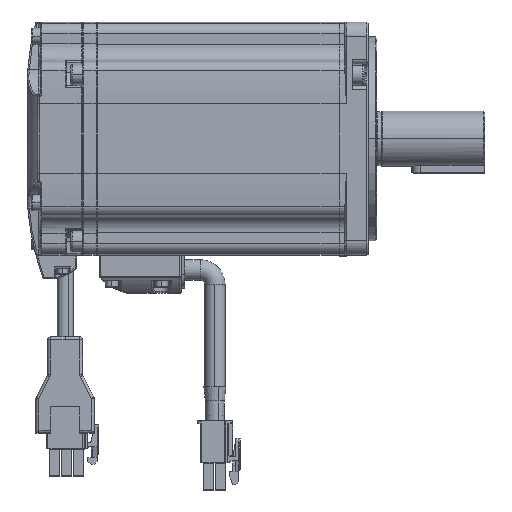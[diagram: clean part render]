
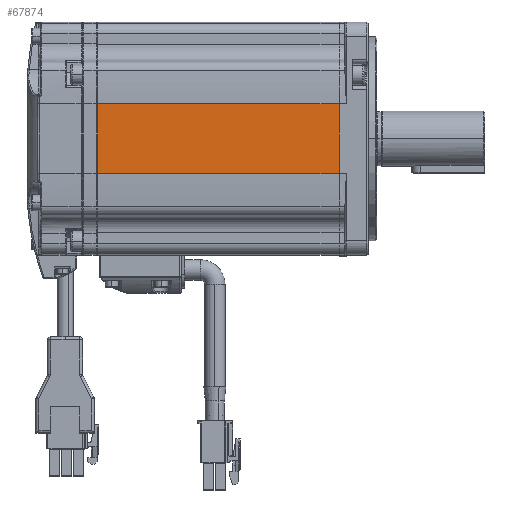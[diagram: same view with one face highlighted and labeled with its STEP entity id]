
A CAD part, top view. The second image highlights one B-rep face of the part: STEP entity #67874.
In plain terms, the highlighted planar face has unit normal (0, 0, 1).
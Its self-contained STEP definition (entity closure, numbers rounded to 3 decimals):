
#464 = EDGE_CURVE ( 'NONE', #31601, #49234, #2088, .T. ) ;
#2088 = LINE ( 'NONE', #2165, #56939 ) ;
#2165 = CARTESIAN_POINT ( 'NONE',  ( -129.53, 4.746, 40. ) ) ;
#2775 = LINE ( 'NONE', #49961, #59354 ) ;
#8178 = ORIENTED_EDGE ( 'NONE', *, *, #464, .T. ) ;
#10220 = LINE ( 'NONE', #65560, #47913 ) ;
#10365 = CARTESIAN_POINT ( 'NONE',  ( -129.53, -7.254, 40. ) ) ;
#12432 = LINE ( 'NONE', #48360, #16769 ) ;
#13774 = AXIS2_PLACEMENT_3D ( 'NONE', #30267, #62855, #35550 ) ;
#15735 = DIRECTION ( 'NONE',  ( 0., 1., 0. ) ) ;
#16255 = EDGE_CURVE ( 'NONE', #35131, #29314, #10220, .T. ) ;
#16769 = VECTOR ( 'NONE', #20342, 1000. ) ;
#16846 = FACE_OUTER_BOUND ( 'NONE', #50031, .T. ) ;
#20342 = DIRECTION ( 'NONE',  ( 1., 0., 0. ) ) ;
#24022 = ORIENTED_EDGE ( 'NONE', *, *, #68435, .T. ) ;
#27935 = DIRECTION ( 'NONE',  ( 1., 0., 0. ) ) ;
#29314 = VERTEX_POINT ( 'NONE', #45391 ) ;
#30267 = CARTESIAN_POINT ( 'NONE',  ( -156.03, 4.746, 40. ) ) ;
#31601 = VERTEX_POINT ( 'NONE', #54894 ) ;
#32409 = ORIENTED_EDGE ( 'NONE', *, *, #48364, .F. ) ;
#35131 = VERTEX_POINT ( 'NONE', #67534 ) ;
#35550 = DIRECTION ( 'NONE',  ( 0., -1., 0. ) ) ;
#35741 = DIRECTION ( 'NONE',  ( 0., -1., 0. ) ) ;
#45391 = CARTESIAN_POINT ( 'NONE',  ( -46.53, 16.746, 40. ) ) ;
#47913 = VECTOR ( 'NONE', #15735, 1000. ) ;
#48360 = CARTESIAN_POINT ( 'NONE',  ( -156.03, -7.254, 40. ) ) ;
#48364 = EDGE_CURVE ( 'NONE', #31601, #29314, #2775, .T. ) ;
#49234 = VERTEX_POINT ( 'NONE', #10365 ) ;
#49961 = CARTESIAN_POINT ( 'NONE',  ( -156.03, 16.746, 40. ) ) ;
#50031 = EDGE_LOOP ( 'NONE', ( #24022, #68777, #32409, #8178 ) ) ;
#53685 = PLANE ( 'NONE',  #13774 ) ;
#54894 = CARTESIAN_POINT ( 'NONE',  ( -129.53, 16.746, 40. ) ) ;
#56939 = VECTOR ( 'NONE', #35741, 1000. ) ;
#59354 = VECTOR ( 'NONE', #27935, 1000. ) ;
#62855 = DIRECTION ( 'NONE',  ( 0., 0., -1. ) ) ;
#65560 = CARTESIAN_POINT ( 'NONE',  ( -46.53, 4.746, 40. ) ) ;
#67534 = CARTESIAN_POINT ( 'NONE',  ( -46.53, -7.254, 40. ) ) ;
#67874 = ADVANCED_FACE ( 'NONE', ( #16846 ), #53685, .F. ) ;
#68435 = EDGE_CURVE ( 'NONE', #49234, #35131, #12432, .T. ) ;
#68777 = ORIENTED_EDGE ( 'NONE', *, *, #16255, .T. ) ;
